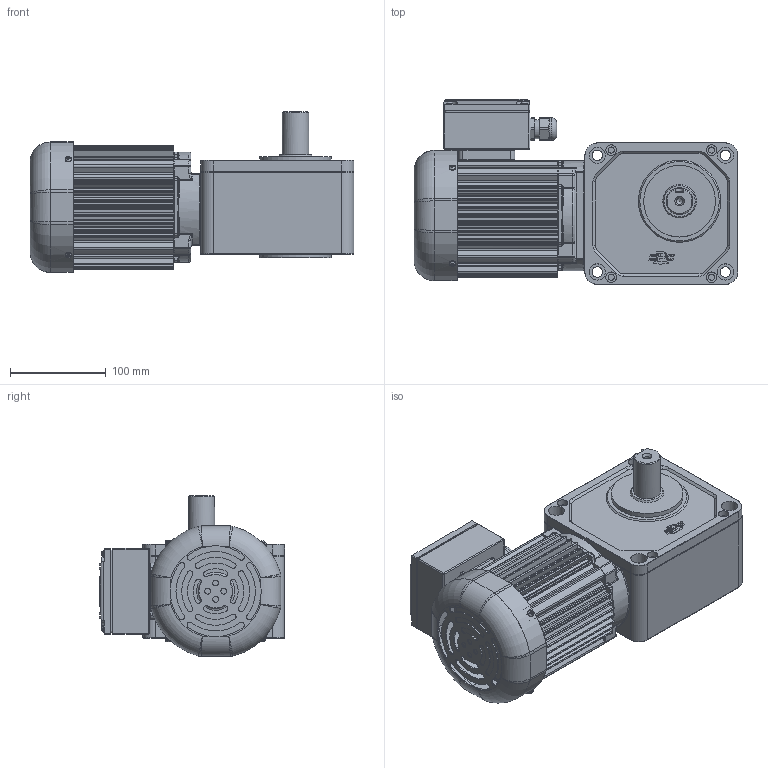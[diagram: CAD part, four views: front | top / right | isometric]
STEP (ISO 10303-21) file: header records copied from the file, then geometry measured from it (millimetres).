
FILE_DESCRIPTION(/* description */ (''),/* implementation_level */ '2;1');
FILE_NAME(/* name */ 'Z:\동력 3D 파일\PCS28L_0.2kW_3D.stp',/* time_stamp */ '2021-11-09T10:50:02+09:00',/* author */ ('jaebok'),/* organization */ (''),/* preprocessor_version */ 'ST-DEVELOPER v18.1',/* originating_system */ 'Autodesk Inventor 2022',/* authorisation */ '');
FILE_SCHEMA (('AUTOMOTIVE_DESIGN { 1 0 10303 214 3 1 1 }'));
Products named in the file (1): 부품42
Bounding box: 338.5 x 193.5 x 168.2 mm (x, y, z)
Volume: 1810387.5 mm3; surface area: 530327.5 mm2
Topology: 1 solids, 32 shells, 1856 faces, 4791 edges, 3036 vertices
Faces by surface type: plane 849, cylinder 668, torus 129, cone 99, bspline 95, sphere 16
Full cylindrical faces by diameter (mm): 3.242 x9, 3.25 x1, 3.6 x4, 4 x21, 5 x13, 5.386 x4, 6 x8, 6.5 x4, 6.647 x1, 7 x12, 8 x1, 10 x1, 11 x8, 12.5 x1, 15 x1, 17 x12, 20 x2, 21 x1, 23.6 x1, 25 x1, 27 x1, 28 x1, 34 x1, 35 x1, 50 x1, 50.562 x1, 64 x1, 68 x2, 73 x2, 75 x2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
Entity records: 62995 total; most frequent: CARTESIAN_POINT 15393, DIRECTION 9777, ORIENTED_EDGE 9484, EDGE_CURVE 4742, AXIS2_PLACEMENT_3D 3700, VERTEX_POINT 3036, LINE 2377, VECTOR 2377
